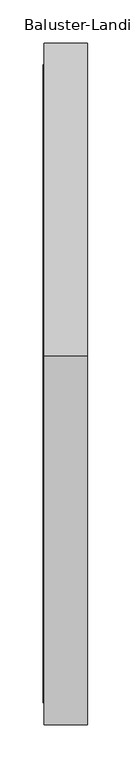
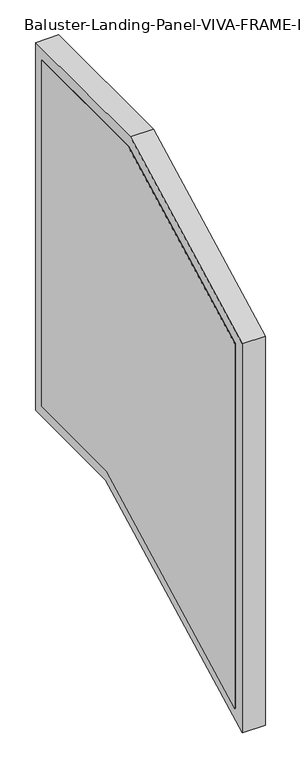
"""IFC4 building model written with IfcOpenShell, lengths in millimetres: railing geometry, Baluster-Landing-Panel-VIVA-FRAME-Lower : Standard_PP01."""

from ifc_helpers import new_model, si_unit, frame, origin, place, context, project, spatial, polyline, outline, extrude, faceted_brep, source, transform, mapped, element, save


def baluster_landing_panel_viva_frame_lower_standard_pp01_71fd184b(model_context):
    return source(origin(), model_context, "Body", "SolidModel", [
        extrude(outline(polyline([(517.599583, 97.8229457), (25.4, -158.3999395), (25.4, 693.147924), (434.563576, 906.145), (766.5444126, 906.145), (766.5444126, 97.8229457), (517.599583, 97.8229457)])), frame((14.2584857, 0.0, 0.0), z_axis=(1.0, 0.0, 0.0), x_axis=(0.0, 1.0, 0.0)), (0.0, 0.0, 1.0), 2.9972),
        faceted_brep([(35.6827057, 5.9329371, -190.4806664), (35.6827057, 5.9329371, 704.9608278), (66.4929057, 5.9329371, 704.9608278), (66.4929057, 5.9329371, -190.4806664), (15.6929057, 50.7385371, -116.6433228), (15.6929057, 50.7385371, 677.7721223), (35.6827057, 50.7385371, 677.7721223), (35.6827057, 50.7385371, -116.6433228), (66.4929057, -0.0614629, -200.3591319), (66.4929057, -0.0614629, 708.598319), (15.6929057, -0.0614629, 708.598319), (15.6929057, -0.0614629, -200.3591319), (35.6827057, 429.8000161, 925.6120629), (66.4929057, 429.8000161, 925.6120629), (15.6929057, 440.7638766, 880.8064629), (35.6827057, 440.7638766, 880.8064629), (66.4929057, 428.3331957, 931.6064629), (15.6929057, 428.3331957, 931.6064629), (35.6827057, 786.0114756, 925.6120629), (66.4929057, 786.0114756, 925.6120629), (15.6929057, 741.2058756, 880.8064629), (35.6827057, 741.2058756, 880.8064629), (66.4929057, 792.0058756, 931.6064629), (15.6929057, 792.0058756, 931.6064629), (35.6827057, 786.0114756, 78.3558827), (66.4929057, 786.0114756, 78.3558827), (15.6929057, 741.2058756, 123.1614827), (35.6827057, 741.2058756, 123.1614827), (66.4929057, 792.0058756, 72.3614827), (15.6929057, 792.0058756, 72.3614827), (35.6827057, 522.363143, 78.3558827), (66.4929057, 522.363143, 78.3558827), (15.6929057, 511.3992824, 123.1614827), (35.6827057, 511.3992824, 123.1614827), (66.4929057, 523.8299633, 72.3614827), (15.6929057, 523.8299633, 72.3614827)], [[[0, 1, 2, 3]], [[4, 5, 6, 7]], [[8, 9, 10, 11]], [[1, 12, 13, 2]], [[5, 14, 15, 6]], [[9, 16, 17, 10]], [[12, 18, 19, 13]], [[14, 20, 21, 15]], [[16, 22, 23, 17]], [[18, 24, 25, 19]], [[20, 26, 27, 21]], [[22, 28, 29, 23]], [[24, 30, 31, 25]], [[26, 32, 33, 27]], [[28, 34, 35, 29]], [[22, 16, 9, 8, 34, 28], [3, 2, 13, 19, 25, 31]], [[30, 0, 3, 31]], [[18, 12, 1, 0, 30, 24], [7, 6, 15, 21, 27, 33]], [[32, 4, 7, 33]], [[11, 10, 17, 23, 29, 35], [20, 14, 5, 4, 32, 26]], [[34, 8, 11, 35]]]),
    ])


if __name__ == "__main__":
    model = new_model("IFC4")
    model_context = context("Model", 3, world=origin())
    ifc_project = project(units=[si_unit("LENGTHUNIT", "METRE", prefix="MILLI")], contexts=[model_context])
    site = spatial("IfcSite", under=ifc_project)
    building = spatial("IfcBuilding", under=site)
    placement = place(None, origin())
    baluster_landing_panel_viva_frame_lower_standard_pp01_shape = baluster_landing_panel_viva_frame_lower_standard_pp01_71fd184b(model_context)
    element("IfcRailing", 1, ObjectType="Baluster-Landing-Panel-VIVA-FRAME-Lower : Standard_PP01", at=placement, inside=building, context=model_context, shape_type="MappedRepresentation", body=[
        mapped(baluster_landing_panel_viva_frame_lower_standard_pp01_shape, transform((0.0, 0.0, 0.0), x_axis=(1.0, 0.0, 0.0), y_axis=(0.0, 1.0, 0.0), z_axis=(0.0, 0.0, 1.0))),
    ])
    save(model, "model.ifc")
